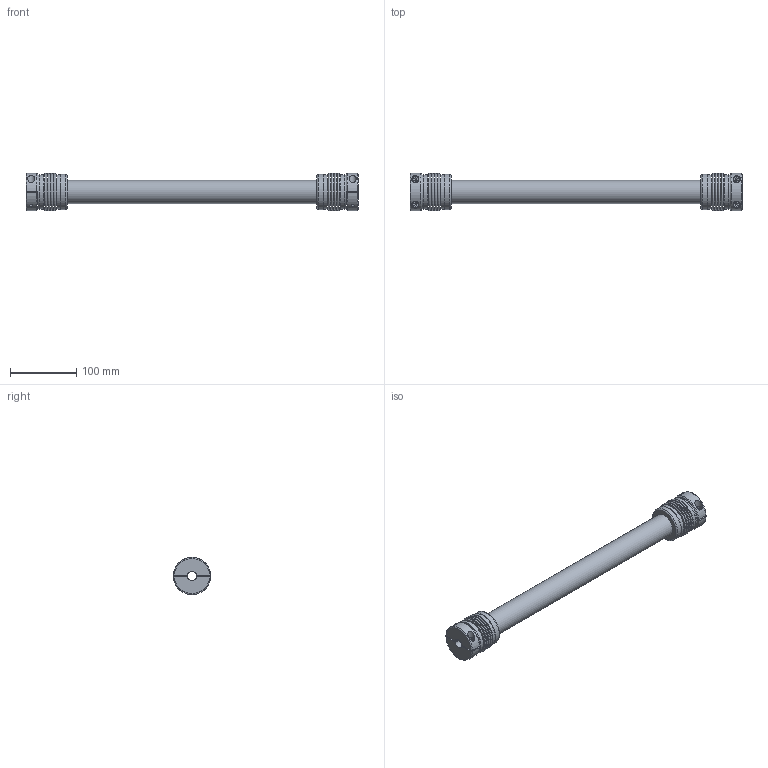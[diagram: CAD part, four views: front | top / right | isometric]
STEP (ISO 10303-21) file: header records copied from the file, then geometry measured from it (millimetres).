
FILE_DESCRIPTION( ( 'Unknown' ), '1' );
FILE_NAME( 'F:/JAKOB-STEP+IGES-Dateien/STEP-Dateien/WDE/WDE 40 - L=0,5m.stp', 'Unknown', ( 'Unknown' ), ( 'Unknown' ), 'PSStep 10.1', 'Unknown', ' ' );
FILE_SCHEMA( ( 'AUTOMOTIVE_DESIGN { 1 0 10303 214 1 1 1 1 }' ) );
Length unit declared in the file: millimetre
Products named in the file (1): WDE  40
Bounding box: 500 x 55.99 x 56 mm (x, y, z)
Volume: 238757.7 mm3; surface area: 166036 mm2
Topology: 1 solids, 1 shells, 228 faces, 462 edges, 302 vertices
Faces by surface type: plane 132, torus 50, cylinder 42, cone 4
Full cylindrical faces by diameter (mm): 5 x4, 6 x4, 6.4 x4, 10 x4, 11 x4, 30 x1, 35 x1, 39.153 x2, 51.6 x4, 52.6 x4, 53 x2
Entity records: 7896 total; most frequent: CARTESIAN_POINT 1597, DIRECTION 978, ORIENTED_EDGE 708, AXIS2_PLACEMENT_3D 419, EDGE_LOOP 380, EDGE_CURVE 354, FACE_OUTER_BOUND 304, VERTEX_POINT 278
